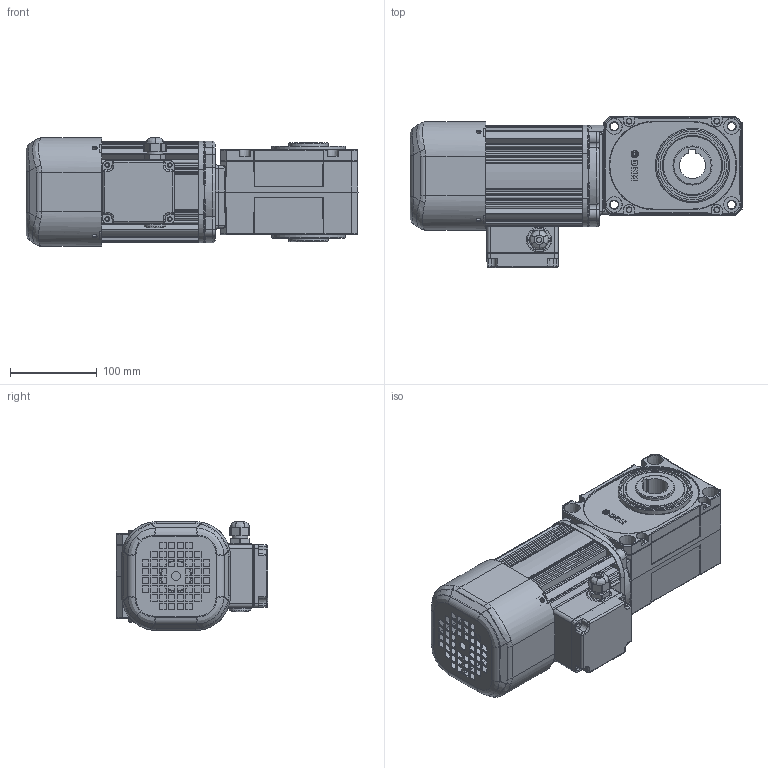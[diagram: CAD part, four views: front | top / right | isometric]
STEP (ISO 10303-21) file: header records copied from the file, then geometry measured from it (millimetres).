
FILE_DESCRIPTION (( 'STEP AP203' ), '1' );
FILE_NAME ('DSY30B-(40~60)B040-¤±.STEP', '2022-08-08T06:45:12', ( '' ), ( '' ), 'SwSTEP 2.0', 'SolidWorks 2018', '' );
FILE_SCHEMA (( 'CONFIG_CONTROL_DESIGN' ));
Length unit declared in the file: millimetre
Products named in the file (15): 欽濠夢蝶 葆偃; 0.4kW 粽溯檜觼 の醴幗; 0.4KW 粽溯檜觼 賅攪; 欽濠夢蝶 ж 熱薑; DSY04L 馬樓晦; DSY30B-(40~60)B040-仃; Щ滓衛綰_ル遽; DKM 0.4kW 牢惯橇饭烙; 堅鼠ぬ韁-鼻; 堅鼠ぬ韁-ж; DKM 窜磊措 惑何荐沥档(20200120); CASE-DSY04L-DC; 欽濠夢蝶 ASS''Y; DKM 0.4kW 菴醴幗; COVER-DSY04L-DC
Assembly tree (14 placements, depth 3):
  DSY30B-(40~60)B040-仃
    DSY04L 馬樓晦
      CASE-DSY04L-DC
      COVER-DSY04L-DC
    欽濠夢蝶 ASS''Y
      欽濠夢蝶 ж 熱薑
      Щ滓衛綰_ル遽
      欽濠夢蝶 葆偃
      堅鼠ぬ韁-鼻
      堅鼠ぬ韁-ж
      DKM 窜磊措 惑何荐沥档(20200120)
    0.4KW 粽溯檜觼 賅攪
      DKM 0.4kW 牢惯橇饭烙
      DKM 0.4kW 菴醴幗
      0.4kW 粽溯檜觼 の醴幗
Bounding box: 382 x 174.8 x 125.16 mm (x, y, z)
Volume: 3620822.6 mm3; surface area: 481526.2 mm2
Topology: 11 solids, 11 shells, 1675 faces, 4407 edges, 2773 vertices
Faces by surface type: plane 828, cylinder 503, bspline 211, cone 74, torus 58, sphere 1
Full cylindrical faces by diameter (mm): 0.2 x3, 3.017 x2, 3.981 x2, 4.2 x8, 4.3 x4, 4.5 x4, 5 x8, 5.3 x12, 5.5 x4, 6 x5, 10 x1, 10.8 x1, 16.5 x1, 18 x5, 19 x2, 20 x2, 25 x1, 35 x1, 45 x3, 67 x2, 74 x2, 79 x2, 94.1 x1
Entity records: 63676 total; most frequent: CARTESIAN_POINT 22308, ORIENTED_EDGE 8434, DIRECTION 7758, EDGE_CURVE 4217, VERTEX_POINT 2745, AXIS2_PLACEMENT_3D 2597, LINE 2564, VECTOR 2564
